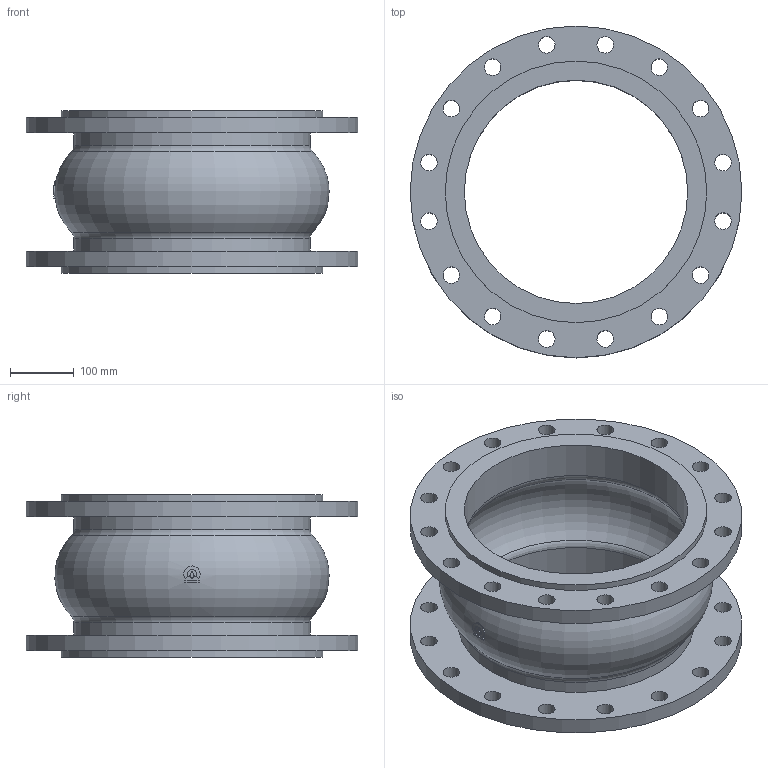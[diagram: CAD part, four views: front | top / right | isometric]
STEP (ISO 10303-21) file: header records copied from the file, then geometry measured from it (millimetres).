
FILE_DESCRIPTION(('STEP AP203'), '1');
FILE_NAME('Êîìïåíñàòîð KMS DN350 PN16_L255', '', ('UNSPECIFIED'), ('UNSPECIFIED'), 'ASCON STEP Converter 1.6', 'ASCON Math Kernel', '');
FILE_SCHEMA(('CONFIG_CONTROL_DESIGN'));
Length unit declared in the file: millimetre
Bounding box: 520 x 520 x 255 mm (x, y, z)
Volume: 8575068.6 mm3; surface area: 1150048.7 mm2
Topology: 1 solids, 1 shells, 69 faces, 172 edges, 112 vertices
Faces by surface type: cylinder 47, plane 13, torus 9
Full cylindrical faces by diameter (mm): 26 x32, 350 x2, 370 x2, 410 x2, 520 x2
Entity records: 3564 total; most frequent: CARTESIAN_POINT 1335, DIRECTION 334, ORIENTED_EDGE 252, EDGE_LOOP 188, AXIS2_PLACEMENT_3D 160, EDGE_CURVE 126, VERTEX_POINT 112, FACE_BOUND 96
